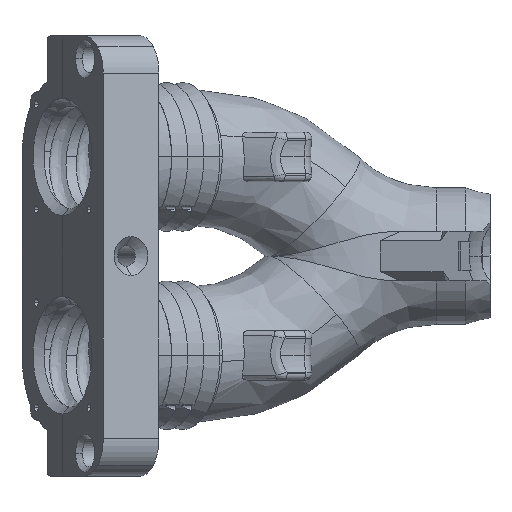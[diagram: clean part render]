
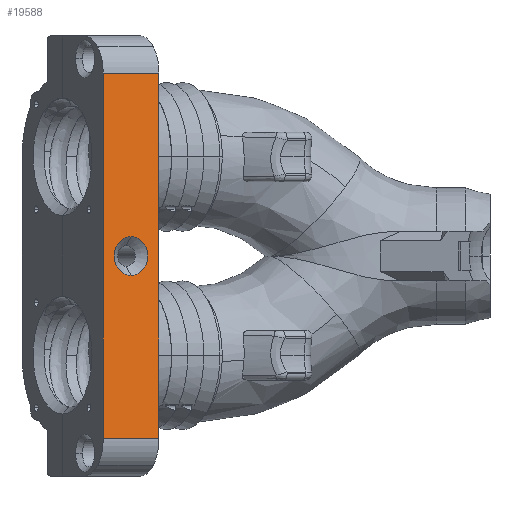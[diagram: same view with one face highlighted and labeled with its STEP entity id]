
A CAD part, front view. The second image highlights one B-rep face of the part: STEP entity #19588.
In plain terms, the highlighted planar face has unit normal (0.5, -0.866, 0).
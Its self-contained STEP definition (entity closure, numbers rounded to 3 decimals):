
#407 = VECTOR ( 'NONE', #9988, 1000. ) ;
#680 = DIRECTION ( 'NONE',  ( 0., 0., -1. ) ) ;
#715 = CARTESIAN_POINT ( 'NONE',  ( -89.615, -11.297, 30.834 ) ) ;
#992 = VECTOR ( 'NONE', #8886, 1000. ) ;
#1771 = PLANE ( 'NONE',  #17808 ) ;
#2187 = CARTESIAN_POINT ( 'NONE',  ( -89.615, -11.297, -16.126 ) ) ;
#4183 = FACE_OUTER_BOUND ( 'NONE', #8295, .T. ) ;
#4416 = DIRECTION ( 'NONE',  ( 0., 0., 1. ) ) ;
#4798 = LINE ( 'NONE', #21927, #12102 ) ;
#5440 = VERTEX_POINT ( 'NONE', #27153 ) ;
#5786 = CARTESIAN_POINT ( 'NONE',  ( -85.115, -8.699, -3.133 ) ) ;
#6171 = DIRECTION ( 'NONE',  ( 0.5, -0.866, 0. ) ) ;
#6702 = EDGE_CURVE ( 'NONE', #8400, #14041, #26165, .T. ) ;
#7039 = VERTEX_POINT ( 'NONE', #5786 ) ;
#7899 = CARTESIAN_POINT ( 'NONE',  ( -85.115, -8.699, 0.017 ) ) ;
#7934 = DIRECTION ( 'NONE',  ( 0., 0., -1. ) ) ;
#8295 = EDGE_LOOP ( 'NONE', ( #14698, #17322, #29379, #27813, #14882, #15630 ) ) ;
#8400 = VERTEX_POINT ( 'NONE', #30188 ) ;
#8886 = DIRECTION ( 'NONE',  ( -0.866, -0.5, 0. ) ) ;
#9988 = DIRECTION ( 'NONE',  ( 0.866, 0.5, 0. ) ) ;
#10588 = CIRCLE ( 'NONE', #14670, 3.15 ) ;
#10739 = CIRCLE ( 'NONE', #30585, 3.15 ) ;
#11729 = VECTOR ( 'NONE', #7934, 1000. ) ;
#12102 = VECTOR ( 'NONE', #14554, 1000. ) ;
#13319 = CARTESIAN_POINT ( 'NONE',  ( -89.615, -11.297, 29.517 ) ) ;
#13467 = DIRECTION ( 'NONE',  ( 0.5, -0.866, 0. ) ) ;
#14041 = VERTEX_POINT ( 'NONE', #2187 ) ;
#14136 = EDGE_CURVE ( 'NONE', #16778, #14041, #17369, .T. ) ;
#14338 = CARTESIAN_POINT ( 'NONE',  ( -89.615, -11.297, -20.966 ) ) ;
#14496 = EDGE_CURVE ( 'NONE', #25229, #8400, #20722, .T. ) ;
#14554 = DIRECTION ( 'NONE',  ( 0., 0., -1. ) ) ;
#14670 = AXIS2_PLACEMENT_3D ( 'NONE', #28024, #6171, #28184 ) ;
#14698 = ORIENTED_EDGE ( 'NONE', *, *, #14496, .F. ) ;
#14882 = ORIENTED_EDGE ( 'NONE', *, *, #14136, .T. ) ;
#14944 = CARTESIAN_POINT ( 'NONE',  ( -89.615, -11.297, 29.517 ) ) ;
#15193 = EDGE_CURVE ( 'NONE', #21564, #7039, #10739, .T. ) ;
#15486 = CARTESIAN_POINT ( 'NONE',  ( -80.615, -6.101, -29.483 ) ) ;
#15630 = ORIENTED_EDGE ( 'NONE', *, *, #6702, .F. ) ;
#16426 = DIRECTION ( 'NONE',  ( 0., 0., -1. ) ) ;
#16778 = VERTEX_POINT ( 'NONE', #13319 ) ;
#16839 = VECTOR ( 'NONE', #16426, 1000. ) ;
#17322 = ORIENTED_EDGE ( 'NONE', *, *, #21934, .F. ) ;
#17369 = LINE ( 'NONE', #715, #11729 ) ;
#17808 = AXIS2_PLACEMENT_3D ( 'NONE', #30830, #13467, #30507 ) ;
#17825 = VECTOR ( 'NONE', #4416, 1000. ) ;
#18902 = FACE_BOUND ( 'NONE', #18984, .T. ) ;
#18984 = EDGE_LOOP ( 'NONE', ( #21793, #19141 ) ) ;
#19141 = ORIENTED_EDGE ( 'NONE', *, *, #15193, .F. ) ;
#19588 = ADVANCED_FACE ( 'NONE', ( #18902, #4183 ), #1771, .T. ) ;
#20212 = DIRECTION ( 'NONE',  ( 0.5, -0.866, 0. ) ) ;
#20722 = LINE ( 'NONE', #21047, #992 ) ;
#21047 = CARTESIAN_POINT ( 'NONE',  ( -89.615, -11.297, -29.483 ) ) ;
#21564 = VERTEX_POINT ( 'NONE', #28994 ) ;
#21713 = LINE ( 'NONE', #31390, #16839 ) ;
#21793 = ORIENTED_EDGE ( 'NONE', *, *, #25985, .F. ) ;
#21927 = CARTESIAN_POINT ( 'NONE',  ( -80.615, -6.101, -4.17 ) ) ;
#21934 = EDGE_CURVE ( 'NONE', #28410, #25229, #21713, .T. ) ;
#22156 = LINE ( 'NONE', #14944, #407 ) ;
#23872 = EDGE_CURVE ( 'NONE', #5440, #28410, #4798, .T. ) ;
#25229 = VERTEX_POINT ( 'NONE', #15486 ) ;
#25985 = EDGE_CURVE ( 'NONE', #7039, #21564, #10588, .T. ) ;
#26165 = LINE ( 'NONE', #14338, #17825 ) ;
#27153 = CARTESIAN_POINT ( 'NONE',  ( -80.615, -6.101, 29.517 ) ) ;
#27643 = EDGE_CURVE ( 'NONE', #16778, #5440, #22156, .T. ) ;
#27813 = ORIENTED_EDGE ( 'NONE', *, *, #27643, .F. ) ;
#28024 = CARTESIAN_POINT ( 'NONE',  ( -85.115, -8.699, 0.017 ) ) ;
#28184 = DIRECTION ( 'NONE',  ( 0., 0., -1. ) ) ;
#28269 = CARTESIAN_POINT ( 'NONE',  ( -80.615, -6.101, -16.126 ) ) ;
#28410 = VERTEX_POINT ( 'NONE', #28269 ) ;
#28994 = CARTESIAN_POINT ( 'NONE',  ( -85.115, -8.699, 3.167 ) ) ;
#29379 = ORIENTED_EDGE ( 'NONE', *, *, #23872, .F. ) ;
#30188 = CARTESIAN_POINT ( 'NONE',  ( -89.615, -11.297, -29.483 ) ) ;
#30507 = DIRECTION ( 'NONE',  ( 0., 0., -1. ) ) ;
#30585 = AXIS2_PLACEMENT_3D ( 'NONE', #7899, #20212, #680 ) ;
#30830 = CARTESIAN_POINT ( 'NONE',  ( -89.615, -11.297, 35.517 ) ) ;
#31390 = CARTESIAN_POINT ( 'NONE',  ( -80.615, -6.101, -30.644 ) ) ;
